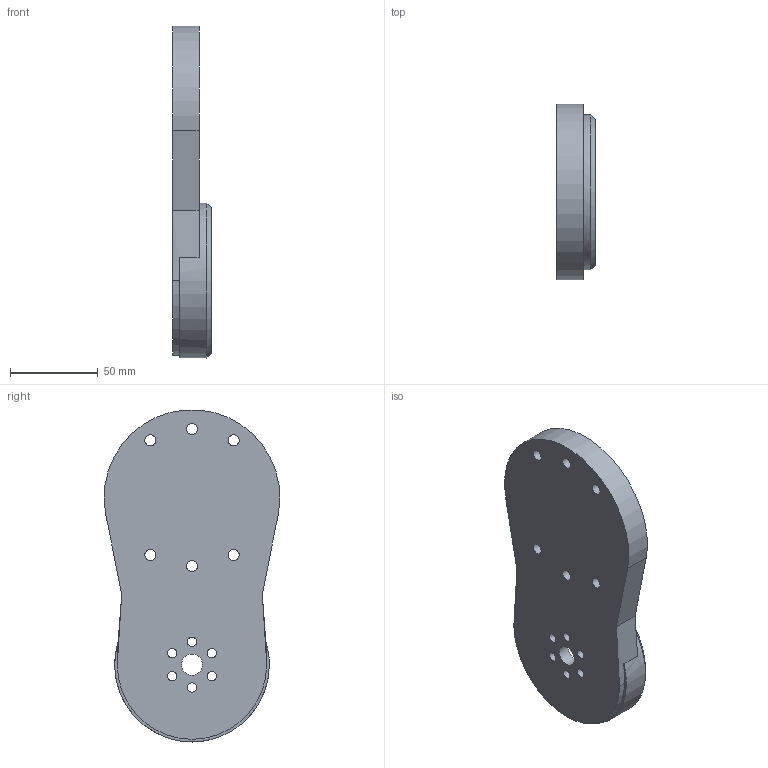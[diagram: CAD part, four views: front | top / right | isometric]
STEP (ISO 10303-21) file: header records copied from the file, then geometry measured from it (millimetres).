
FILE_DESCRIPTION(/* description */ (''),/* implementation_level */ '2;1');
FILE_NAME(/* name */ 'elbow-base.step',/* time_stamp */ '2026-06-03T23:48:12+01:00',/* author */ (''),/* organization */ (''),/* preprocessor_version */ 'ST-DEVELOPER v20.1',/* originating_system */ 'Autodesk Translation Framework v15.8.0.0',/* authorisation */ '');
FILE_SCHEMA (('AUTOMOTIVE_DESIGN { 1 0 10303 214 3 1 1 }'));
Length unit declared in the file: millimetre
Products named in the file (1): elbow-base
Bounding box: 22 x 99.96 x 188.82 mm (x, y, z)
Volume: 190725.6 mm3; surface area: 46262.5 mm2
Topology: 1 solids, 1 shells, 64 faces, 173 edges, 115 vertices
Faces by surface type: plane 34, cylinder 27, bspline 2, cone 1
Full cylindrical faces by diameter (mm): 5.3 x6, 6.3 x6, 12 x1, 40 x1, 65.2 x1, 80 x1, 88 x1
Entity records: 2317 total; most frequent: CARTESIAN_POINT 587, DIRECTION 348, ORIENTED_EDGE 346, EDGE_CURVE 173, AXIS2_PLACEMENT_3D 120, VERTEX_POINT 115, LINE 108, VECTOR 108
